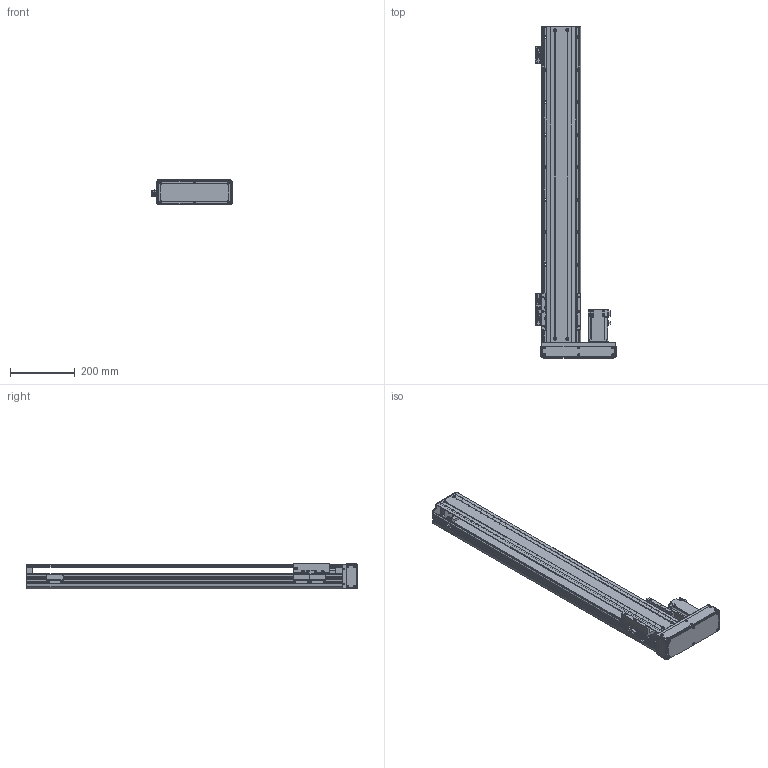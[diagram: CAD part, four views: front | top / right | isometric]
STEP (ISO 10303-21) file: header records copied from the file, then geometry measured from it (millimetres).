
FILE_DESCRIPTION(/* description */ ('MANUFACTURE'),/* implementation_level */ '2;1');
FILE_NAME(/* name */ '\\192.168.0.160\disk1\HAN SHIN Master\B-설계부문\C-표준\B-2024년\BC02-표준도면\+로봇 개선표준도면\홈페이지 표준 도면\홈페이지 최종 작업 폴더\3D\HR\HR120\HR120병렬\우병렬\HR120-R40-N-0800-L10.stp',/* time_stamp */ '2025-01-20T18:55:26+09:00',/* author */ ('user'),/* organization */ (''),/* preprocessor_version */ 'ST-DEVELOPER v18.1',/* originating_system */ 'Autodesk Inventor 2022',/* authorisation */ 'LIP');
FILE_SCHEMA (('CONFIG_CONTROL_DESIGN'));
Products named in the file (20): HG120-L40-N-0500-R10; HR120 S BASE; HR(HG) 120,130 FRONT BLOCK; HR(HG) 120,130 FRONT BLOCK_1; HR120 FRONT COVER; HG5UPCOV003; ORP6; HG120 TABLE-N; HR120 STOPPER; HR120 LR MOTOR PLATE (400W)-사출; MOTOR PLATE - 200W; hg-kr43_; 화살표; HR120 LR BELT COVER; HR160 ACRYL COVER - 1; HR160 ACRYL COVER - 1_1; HR160 ACRYL COVER - 1_2; HR120 SENSOR DOG; SENSOR BRK(EE-SX674A); EE_SX674A
Assembly tree (25 placements, depth 2):
  HG120-L40-N-0500-R10
    HR120 S BASE
    HR(HG) 120,130 FRONT BLOCK
    HR(HG) 120,130 FRONT BLOCK_1
    HR120 FRONT COVER
    HG5UPCOV003
    ORP6
    HG120 TABLE-N
    HR120 STOPPER
    HR120 LR MOTOR PLATE (400W)-사출
    MOTOR PLATE - 200W
    hg-kr43_
    화살표  x2
    HR120 LR BELT COVER
    HR160 ACRYL COVER - 1
    HR160 ACRYL COVER - 1_1
    HR160 ACRYL COVER - 1_2  x2
    SENSOR BRK(EE-SX674A)  x3
    EE_SX674A  x3
    HR120 SENSOR DOG
Bounding box: 250 x 1023 x 80 mm (x, y, z)
Volume: 2882455.7 mm3; surface area: 1183219.2 mm2
Topology: 25 solids, 25 shells, 3120 faces, 8968 edges, 5926 vertices
Faces by surface type: plane 2217, cylinder 756, cone 146, torus 1
Full cylindrical faces by diameter (mm): 2.459 x50, 3 x4, 3.242 x48, 3.4 x20, 3.5 x6, 4.134 x46, 4.5 x56, 4.917 x6, 5 x26, 5.5 x35, 5.8 x4, 5.9 x8, 6 x4, 6.6 x2, 7 x4, 7.5 x16, 8 x4, 9 x6, 9.5 x23, 14 x1, 17 x1, 20 x1, 22 x1, 24 x1, 28 x1, 32 x2, 33.7 x1, 50 x2
Entity records: 100145 total; most frequent: CARTESIAN_POINT 20537, ORIENTED_EDGE 16684, DIRECTION 15427, EDGE_CURVE 8342, LINE 6597, VECTOR 6597, VERTEX_POINT 5578, AXIS2_PLACEMENT_3D 4415
